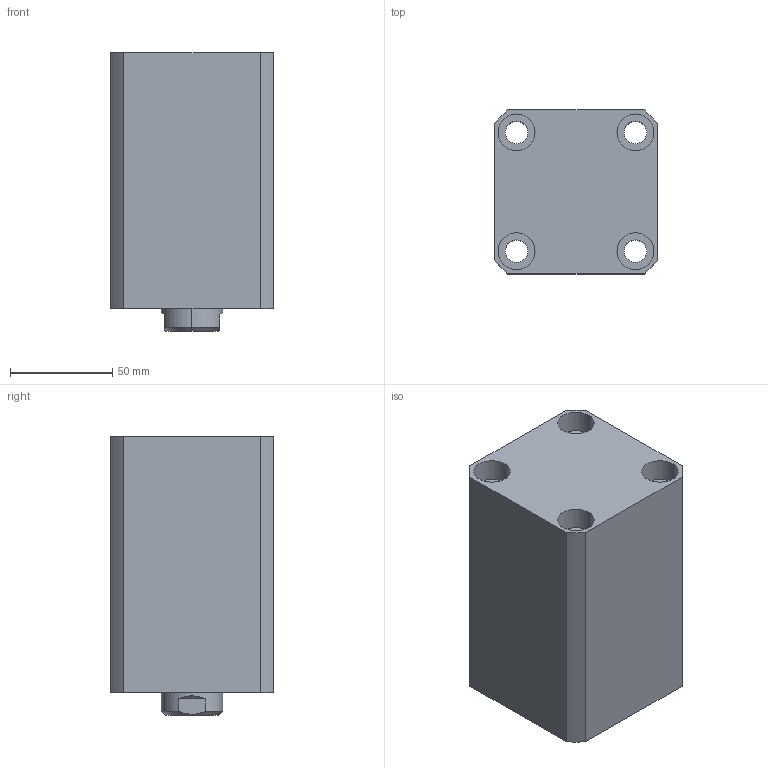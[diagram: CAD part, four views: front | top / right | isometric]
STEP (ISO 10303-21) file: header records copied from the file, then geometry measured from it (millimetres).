
FILE_DESCRIPTION (( 'STEP AP203' ), '1' );
FILE_NAME ('CHTB-SDAM50-65N.STEP', '2018-05-19T02:28:07', ( '' ), ( '' ), 'SwSTEP 2.0', 'SolidWorks 2015', '' );
FILE_SCHEMA (( 'CONFIG_CONTROL_DESIGN' ));
Length unit declared in the file: millimetre
Products named in the file (5): 活塞杆SDMA50-65N; 掛极SDMA50-65N; M6; CHTM-SDMA50QG; CHTB-SDAM50-65N
Assembly tree (5 placements, depth 2):
  CHTB-SDAM50-65N
    掛极SDMA50-65N
    活塞杆SDMA50-65N
    CHTM-SDMA50QG
    M6  x2
Bounding box: 80 x 80 x 136 mm (x, y, z)
Volume: 639227.6 mm3; surface area: 124594.6 mm2
Topology: 5 solids, 5 shells, 270 faces, 703 edges, 464 vertices
Faces by surface type: cylinder 139, plane 58, cone 31, bspline 26, torus 16
Entity records: 14133 total; most frequent: CARTESIAN_POINT 8131, ORIENTED_EDGE 1208, DIRECTION 1054, EDGE_CURVE 604, AXIS2_PLACEMENT_3D 433, VERTEX_POINT 403, EDGE_LOOP 277, ADVANCED_FACE 235
